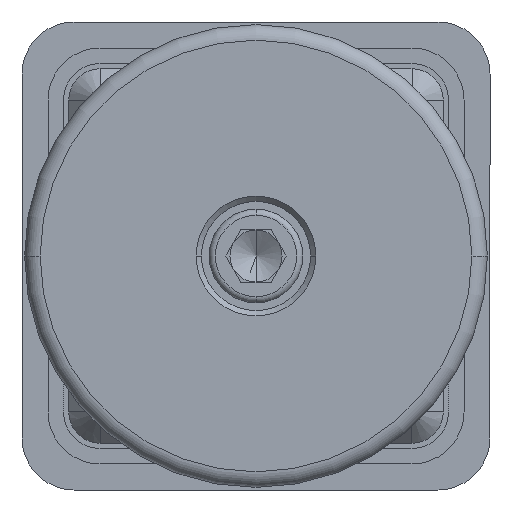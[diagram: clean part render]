
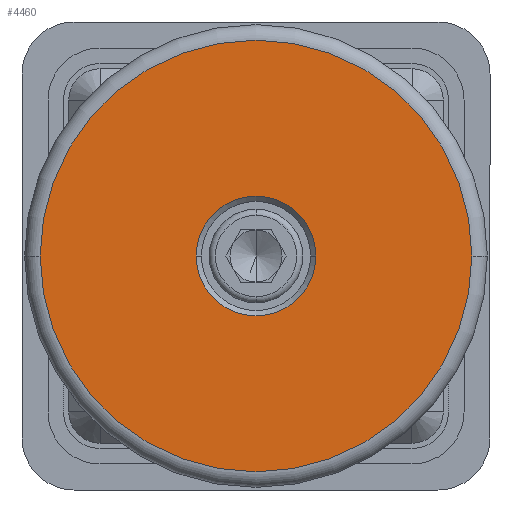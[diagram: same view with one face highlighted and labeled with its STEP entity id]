
A CAD part, front view. The second image highlights one B-rep face of the part: STEP entity #4460.
In plain terms, the highlighted planar face has unit normal (0, -1, 0).
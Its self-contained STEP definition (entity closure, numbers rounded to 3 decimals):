
#658 = DIRECTION ( 'NONE',  ( 0., 0., -1. ) ) ;
#682 = DIRECTION ( 'NONE',  ( 0., -1., 0. ) ) ;
#1007 = DIRECTION ( 'NONE',  ( 0., 1., 0. ) ) ;
#1145 = ORIENTED_EDGE ( 'NONE', *, *, #3909, .T. ) ;
#1202 = EDGE_CURVE ( 'NONE', #2279, #1880, #4467, .T. ) ;
#1229 = FACE_OUTER_BOUND ( 'NONE', #4734, .T. ) ;
#1386 = CARTESIAN_POINT ( 'NONE',  ( 0., -27.2, 41.5 ) ) ;
#1401 = AXIS2_PLACEMENT_3D ( 'NONE', #3522, #2596, #5309 ) ;
#1466 = EDGE_CURVE ( 'NONE', #2494, #5281, #4389, .T. ) ;
#1642 = PLANE ( 'NONE',  #1401 ) ;
#1678 = CARTESIAN_POINT ( 'NONE',  ( 0., -27.2, 0. ) ) ;
#1844 = AXIS2_PLACEMENT_3D ( 'NONE', #1678, #2508, #5638 ) ;
#1880 = VERTEX_POINT ( 'NONE', #3895 ) ;
#1919 = AXIS2_PLACEMENT_3D ( 'NONE', #2844, #5028, #4174 ) ;
#2053 = CARTESIAN_POINT ( 'NONE',  ( 0., -27.2, 0. ) ) ;
#2279 = VERTEX_POINT ( 'NONE', #5062 ) ;
#2437 = AXIS2_PLACEMENT_3D ( 'NONE', #2053, #1007, #2838 ) ;
#2494 = VERTEX_POINT ( 'NONE', #5833 ) ;
#2508 = DIRECTION ( 'NONE',  ( 0., -1., 0. ) ) ;
#2596 = DIRECTION ( 'NONE',  ( 0., -1., 0. ) ) ;
#2822 = AXIS2_PLACEMENT_3D ( 'NONE', #4309, #682, #658 ) ;
#2838 = DIRECTION ( 'NONE',  ( 0., 0., -1. ) ) ;
#2844 = CARTESIAN_POINT ( 'NONE',  ( 0., -27.2, 0. ) ) ;
#3012 = FACE_BOUND ( 'NONE', #4598, .T. ) ;
#3124 = CIRCLE ( 'NONE', #2822, 41.5 ) ;
#3218 = ORIENTED_EDGE ( 'NONE', *, *, #1202, .T. ) ;
#3522 = CARTESIAN_POINT ( 'NONE',  ( 44.5, -27.2, 0. ) ) ;
#3895 = CARTESIAN_POINT ( 'NONE',  ( 0., -27.2, -11.5 ) ) ;
#3909 = EDGE_CURVE ( 'NONE', #5281, #2494, #3124, .T. ) ;
#4174 = DIRECTION ( 'NONE',  ( 0., 0., -1. ) ) ;
#4309 = CARTESIAN_POINT ( 'NONE',  ( 0., -27.2, 0. ) ) ;
#4389 = CIRCLE ( 'NONE', #1844, 41.5 ) ;
#4391 = EDGE_CURVE ( 'NONE', #1880, #2279, #4996, .T. ) ;
#4460 = ADVANCED_FACE ( 'NONE', ( #3012, #1229 ), #1642, .T. ) ;
#4467 = CIRCLE ( 'NONE', #1919, 11.5 ) ;
#4598 = EDGE_LOOP ( 'NONE', ( #5272, #3218 ) ) ;
#4734 = EDGE_LOOP ( 'NONE', ( #5567, #1145 ) ) ;
#4996 = CIRCLE ( 'NONE', #2437, 11.5 ) ;
#5028 = DIRECTION ( 'NONE',  ( 0., 1., 0. ) ) ;
#5062 = CARTESIAN_POINT ( 'NONE',  ( 0., -27.2, 11.5 ) ) ;
#5272 = ORIENTED_EDGE ( 'NONE', *, *, #4391, .T. ) ;
#5281 = VERTEX_POINT ( 'NONE', #1386 ) ;
#5309 = DIRECTION ( 'NONE',  ( 0., 0., -1. ) ) ;
#5567 = ORIENTED_EDGE ( 'NONE', *, *, #1466, .T. ) ;
#5638 = DIRECTION ( 'NONE',  ( 0., 0., -1. ) ) ;
#5833 = CARTESIAN_POINT ( 'NONE',  ( 0., -27.2, -41.5 ) ) ;
